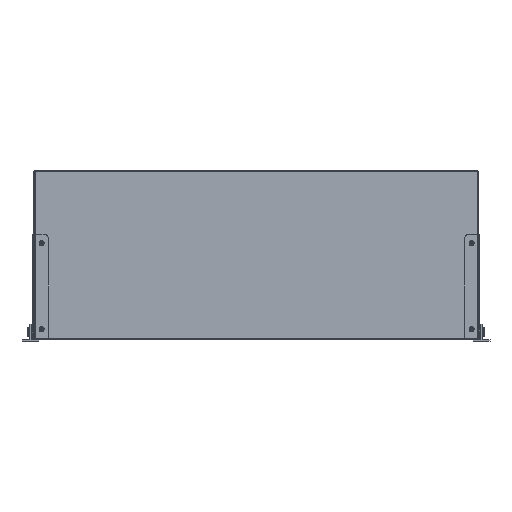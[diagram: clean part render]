
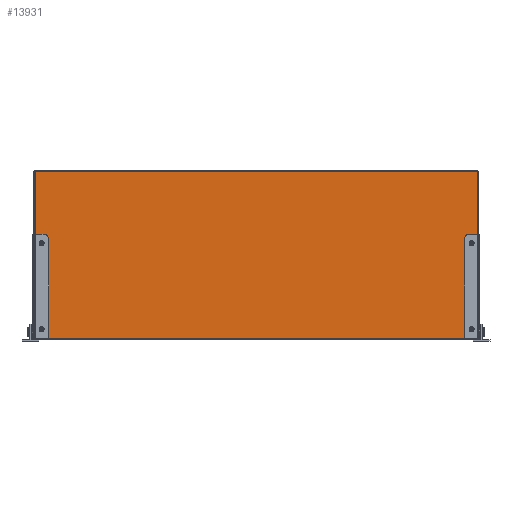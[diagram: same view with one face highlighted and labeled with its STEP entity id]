
A CAD part, front view. The second image highlights one B-rep face of the part: STEP entity #13931.
In plain terms, the highlighted planar face has unit normal (0, -1, 0).
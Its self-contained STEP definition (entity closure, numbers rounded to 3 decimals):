
#109 = CARTESIAN_POINT ( 'NONE',  ( -382.5, 0., -131.8 ) ) ;
#428 = EDGE_LOOP ( 'NONE', ( #5031, #17989 ) ) ;
#698 = DIRECTION ( 'NONE',  ( 0., 0., -1. ) ) ;
#718 = ORIENTED_EDGE ( 'NONE', *, *, #10732, .T. ) ;
#1653 = CIRCLE ( 'NONE', #12895, 2.5 ) ;
#1659 = VECTOR ( 'NONE', #30396, 1000. ) ;
#1928 = EDGE_CURVE ( 'NONE', #6174, #13834, #7555, .T. ) ;
#2079 = VECTOR ( 'NONE', #13621, 1000. ) ;
#2296 = CARTESIAN_POINT ( 'NONE',  ( 382.5, 0., -131.8 ) ) ;
#2461 = DIRECTION ( 'NONE',  ( 0., -1., 0. ) ) ;
#2893 = FACE_BOUND ( 'NONE', #428, .T. ) ;
#2916 = AXIS2_PLACEMENT_3D ( 'NONE', #18684, #6345, #28619 ) ;
#2949 = CARTESIAN_POINT ( 'NONE',  ( 382.5, 0., 21.2 ) ) ;
#3057 = FACE_BOUND ( 'NONE', #6009, .T. ) ;
#3422 = DIRECTION ( 'NONE',  ( 0., -1., 0. ) ) ;
#3474 = VERTEX_POINT ( 'NONE', #26537 ) ;
#3809 = FACE_BOUND ( 'NONE', #25734, .T. ) ;
#3944 = CARTESIAN_POINT ( 'NONE',  ( -382.5, 0., 18.7 ) ) ;
#4763 = CARTESIAN_POINT ( 'NONE',  ( 393.5, 0., -148.5 ) ) ;
#4848 = DIRECTION ( 'NONE',  ( 0., 0., -1. ) ) ;
#5031 = ORIENTED_EDGE ( 'NONE', *, *, #22894, .F. ) ;
#5061 = DIRECTION ( 'NONE',  ( 0., 1., 0. ) ) ;
#5163 = EDGE_CURVE ( 'NONE', #13834, #6174, #1653, .T. ) ;
#5169 = CARTESIAN_POINT ( 'NONE',  ( -393.5, 0., 148.5 ) ) ;
#5572 = AXIS2_PLACEMENT_3D ( 'NONE', #8772, #7848, #29670 ) ;
#6009 = EDGE_LOOP ( 'NONE', ( #17456, #17996 ) ) ;
#6122 = DIRECTION ( 'NONE',  ( 0., 0., -1. ) ) ;
#6174 = VERTEX_POINT ( 'NONE', #16929 ) ;
#6319 = ORIENTED_EDGE ( 'NONE', *, *, #19529, .T. ) ;
#6345 = DIRECTION ( 'NONE',  ( 0., -1., 0. ) ) ;
#6596 = ORIENTED_EDGE ( 'NONE', *, *, #29218, .T. ) ;
#7373 = EDGE_CURVE ( 'NONE', #19485, #17113, #11593, .T. ) ;
#7555 = CIRCLE ( 'NONE', #20278, 2.5 ) ;
#7572 = LINE ( 'NONE', #16873, #23028 ) ;
#7848 = DIRECTION ( 'NONE',  ( 0., -1., 0. ) ) ;
#8054 = DIRECTION ( 'NONE',  ( 0., -1., 0. ) ) ;
#8177 = VERTEX_POINT ( 'NONE', #3944 ) ;
#8441 = CARTESIAN_POINT ( 'NONE',  ( 382.5, 0., 18.7 ) ) ;
#8681 = AXIS2_PLACEMENT_3D ( 'NONE', #14793, #22316, #14942 ) ;
#8699 = DIRECTION ( 'NONE',  ( 0., 0., -1. ) ) ;
#8772 = CARTESIAN_POINT ( 'NONE',  ( 0., 0., 0. ) ) ;
#9695 = CARTESIAN_POINT ( 'NONE',  ( -382.5, 0., 23.7 ) ) ;
#9745 = CARTESIAN_POINT ( 'NONE',  ( -382.5, 0., -134.3 ) ) ;
#10557 = AXIS2_PLACEMENT_3D ( 'NONE', #109, #5061, #29594 ) ;
#10585 = AXIS2_PLACEMENT_3D ( 'NONE', #30816, #18616, #11387 ) ;
#10649 = AXIS2_PLACEMENT_3D ( 'NONE', #2296, #2461, #4848 ) ;
#10732 = EDGE_CURVE ( 'NONE', #30595, #18366, #29264, .T. ) ;
#11387 = DIRECTION ( 'NONE',  ( 0., 0., -1. ) ) ;
#11593 = CIRCLE ( 'NONE', #10585, 2.5 ) ;
#11683 = ORIENTED_EDGE ( 'NONE', *, *, #5163, .F. ) ;
#12710 = DIRECTION ( 'NONE',  ( 0., 0., -1. ) ) ;
#12831 = CIRCLE ( 'NONE', #30775, 2.5 ) ;
#12895 = AXIS2_PLACEMENT_3D ( 'NONE', #22649, #8054, #8699 ) ;
#13303 = CARTESIAN_POINT ( 'NONE',  ( 382.5, 0., -134.3 ) ) ;
#13434 = CARTESIAN_POINT ( 'NONE',  ( 382.5, 0., -129.3 ) ) ;
#13573 = PLANE ( 'NONE',  #5572 ) ;
#13621 = DIRECTION ( 'NONE',  ( 1., 0., 0. ) ) ;
#13834 = VERTEX_POINT ( 'NONE', #8441 ) ;
#13863 = VECTOR ( 'NONE', #698, 1000. ) ;
#13931 = ADVANCED_FACE ( 'NONE', ( #29828, #3057, #3809, #30754, #2893 ), #13573, .T. ) ;
#14458 = EDGE_CURVE ( 'NONE', #18366, #16487, #7572, .T. ) ;
#14501 = EDGE_CURVE ( 'NONE', #27523, #8177, #24554, .T. ) ;
#14567 = ORIENTED_EDGE ( 'NONE', *, *, #24730, .T. ) ;
#14793 = CARTESIAN_POINT ( 'NONE',  ( -382.5, 0., 21.2 ) ) ;
#14942 = DIRECTION ( 'NONE',  ( 0., 0., -1. ) ) ;
#15256 = LINE ( 'NONE', #27612, #13863 ) ;
#15315 = EDGE_LOOP ( 'NONE', ( #11683, #18158 ) ) ;
#16208 = CARTESIAN_POINT ( 'NONE',  ( -382.5, 0., 21.2 ) ) ;
#16487 = VERTEX_POINT ( 'NONE', #5169 ) ;
#16873 = CARTESIAN_POINT ( 'NONE',  ( -395., 0., 148.5 ) ) ;
#16929 = CARTESIAN_POINT ( 'NONE',  ( 382.5, 0., 23.7 ) ) ;
#16961 = ORIENTED_EDGE ( 'NONE', *, *, #14458, .T. ) ;
#17113 = VERTEX_POINT ( 'NONE', #9745 ) ;
#17456 = ORIENTED_EDGE ( 'NONE', *, *, #29315, .T. ) ;
#17989 = ORIENTED_EDGE ( 'NONE', *, *, #18454, .F. ) ;
#17996 = ORIENTED_EDGE ( 'NONE', *, *, #14501, .T. ) ;
#18158 = ORIENTED_EDGE ( 'NONE', *, *, #1928, .F. ) ;
#18366 = VERTEX_POINT ( 'NONE', #26211 ) ;
#18454 = EDGE_CURVE ( 'NONE', #21053, #31600, #24401, .T. ) ;
#18616 = DIRECTION ( 'NONE',  ( 0., 1., 0. ) ) ;
#18684 = CARTESIAN_POINT ( 'NONE',  ( 382.5, 0., -131.8 ) ) ;
#19485 = VERTEX_POINT ( 'NONE', #30955 ) ;
#19529 = EDGE_CURVE ( 'NONE', #17113, #19485, #23381, .T. ) ;
#20278 = AXIS2_PLACEMENT_3D ( 'NONE', #2949, #3422, #12710 ) ;
#20532 = LINE ( 'NONE', #27895, #2079 ) ;
#20552 = DIRECTION ( 'NONE',  ( 0., 1., 0. ) ) ;
#21053 = VERTEX_POINT ( 'NONE', #13434 ) ;
#22316 = DIRECTION ( 'NONE',  ( 0., 1., 0. ) ) ;
#22649 = CARTESIAN_POINT ( 'NONE',  ( 382.5, 0., 21.2 ) ) ;
#22894 = EDGE_CURVE ( 'NONE', #31600, #21053, #25510, .T. ) ;
#23028 = VECTOR ( 'NONE', #26813, 1000. ) ;
#23381 = CIRCLE ( 'NONE', #10557, 2.5 ) ;
#24401 = CIRCLE ( 'NONE', #2916, 2.5 ) ;
#24554 = CIRCLE ( 'NONE', #8681, 2.5 ) ;
#24730 = EDGE_CURVE ( 'NONE', #3474, #30595, #20532, .T. ) ;
#25510 = CIRCLE ( 'NONE', #10649, 2.5 ) ;
#25734 = EDGE_LOOP ( 'NONE', ( #6319, #29466 ) ) ;
#26211 = CARTESIAN_POINT ( 'NONE',  ( 393.5, 0., 148.5 ) ) ;
#26537 = CARTESIAN_POINT ( 'NONE',  ( -393.5, 0., -148.5 ) ) ;
#26813 = DIRECTION ( 'NONE',  ( -1., 0., 0. ) ) ;
#26845 = CARTESIAN_POINT ( 'NONE',  ( 393.5, 0., 150. ) ) ;
#27523 = VERTEX_POINT ( 'NONE', #9695 ) ;
#27612 = CARTESIAN_POINT ( 'NONE',  ( -393.5, 0., -149. ) ) ;
#27895 = CARTESIAN_POINT ( 'NONE',  ( 394., 0., -148.5 ) ) ;
#28619 = DIRECTION ( 'NONE',  ( 0., 0., -1. ) ) ;
#29218 = EDGE_CURVE ( 'NONE', #16487, #3474, #15256, .T. ) ;
#29264 = LINE ( 'NONE', #26845, #1659 ) ;
#29315 = EDGE_CURVE ( 'NONE', #8177, #27523, #12831, .T. ) ;
#29466 = ORIENTED_EDGE ( 'NONE', *, *, #7373, .T. ) ;
#29594 = DIRECTION ( 'NONE',  ( 0., 0., -1. ) ) ;
#29618 = EDGE_LOOP ( 'NONE', ( #6596, #14567, #718, #16961 ) ) ;
#29670 = DIRECTION ( 'NONE',  ( 0., 0., -1. ) ) ;
#29828 = FACE_OUTER_BOUND ( 'NONE', #29618, .T. ) ;
#30396 = DIRECTION ( 'NONE',  ( 0., 0., 1. ) ) ;
#30595 = VERTEX_POINT ( 'NONE', #4763 ) ;
#30754 = FACE_BOUND ( 'NONE', #15315, .T. ) ;
#30775 = AXIS2_PLACEMENT_3D ( 'NONE', #16208, #20552, #6122 ) ;
#30816 = CARTESIAN_POINT ( 'NONE',  ( -382.5, 0., -131.8 ) ) ;
#30955 = CARTESIAN_POINT ( 'NONE',  ( -382.5, 0., -129.3 ) ) ;
#31600 = VERTEX_POINT ( 'NONE', #13303 ) ;
